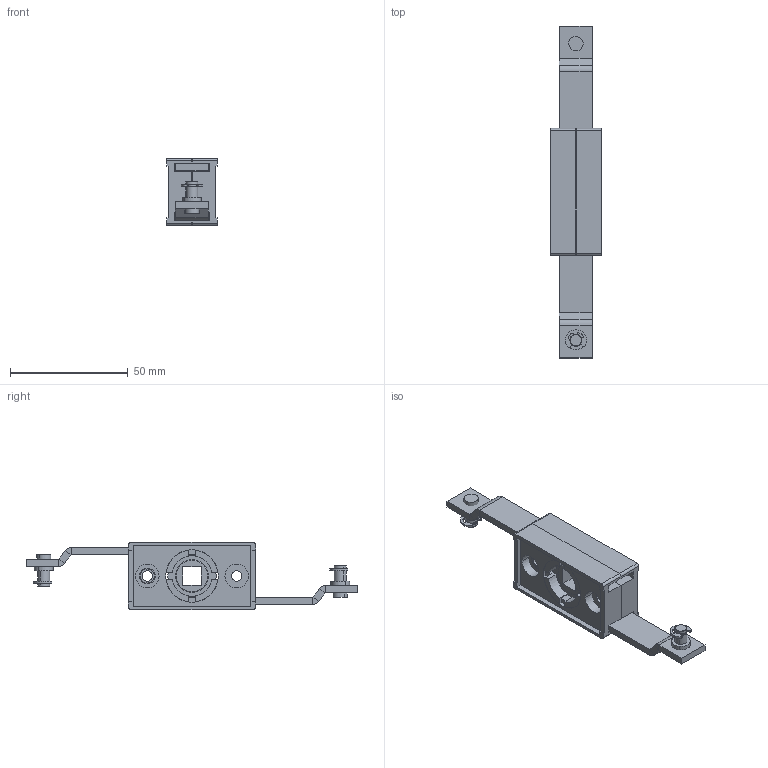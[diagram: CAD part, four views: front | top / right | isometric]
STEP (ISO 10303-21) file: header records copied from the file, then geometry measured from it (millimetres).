
FILE_DESCRIPTION (( 'STEP AP203' ), '1' );
FILE_NAME ('MZ1.STEP', '2008-08-14T08:28:16', ( '£ukaszC' ), ( '' ), 'SwSTEP 2.0', 'SolidWorks 2008', '' );
FILE_SCHEMA (( 'CONFIG_CONTROL_DESIGN' ));
Length unit declared in the file: millimetre
Products named in the file (6): Ko³o zebate1_Domyœlna; MZ1; 1C.MZ1.03.01.00_Domyœlna; Sworzen1_Domyœlna; Zapinka1_Domyœlna; MZ korpus_Domyœlna
Assembly tree (9 placements, depth 2):
  MZ1
    Zapinka1_Domyœlna  x2
    MZ korpus_Domyœlna  x2
    1C.MZ1.03.01.00_Domyœlna  x2
    Sworzen1_Domyœlna  x2
    Ko³o zebate1_Domyœlna
Bounding box: 21.4 x 141 x 28.5 mm (x, y, z)
Volume: 20924.4 mm3; surface area: 22962.3 mm2
Topology: 9 solids, 9 shells, 463 faces, 1273 edges, 836 vertices
Faces by surface type: plane 254, cylinder 136, cone 37, bspline 36
Entity records: 9753 total; most frequent: CARTESIAN_POINT 2039, ORIENTED_EDGE 1502, DIRECTION 1439, EDGE_CURVE 751, AXIS2_PLACEMENT_3D 498, VERTEX_POINT 494, VECTOR 443, LINE 443
